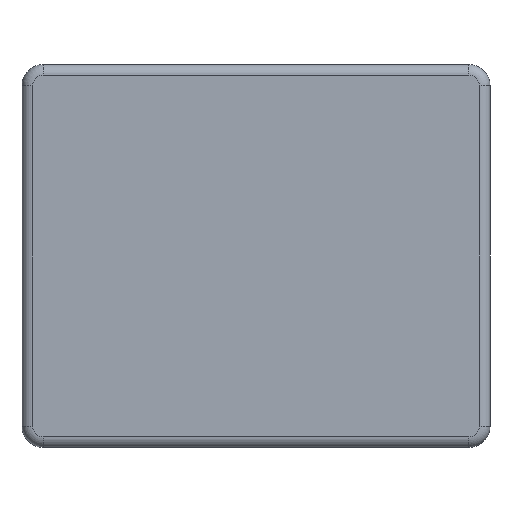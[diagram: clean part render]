
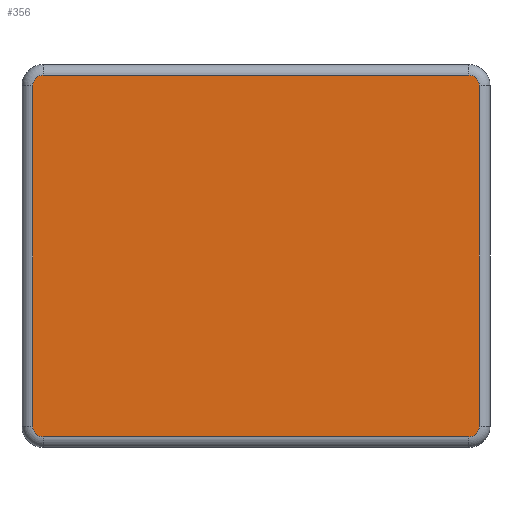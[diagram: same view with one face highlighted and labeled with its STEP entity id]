
A CAD part, front view. The second image highlights one B-rep face of the part: STEP entity #356.
In plain terms, the highlighted planar face has unit normal (0, -1, 0).
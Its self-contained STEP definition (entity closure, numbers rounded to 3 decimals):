
#3 = CARTESIAN_POINT ( 'NONE',  ( -1., 0., -0.8 ) ) ;
#30 = LINE ( 'NONE', #469, #640 ) ;
#31 = DIRECTION ( 'NONE',  ( 0., -1., 0. ) ) ;
#33 = ORIENTED_EDGE ( 'NONE', *, *, #868, .T. ) ;
#77 = EDGE_CURVE ( 'NONE', #169, #563, #396, .T. ) ;
#92 = CARTESIAN_POINT ( 'NONE',  ( 1.05, 0., 0.8 ) ) ;
#116 = DIRECTION ( 'NONE',  ( 1., 0., 0. ) ) ;
#146 = EDGE_CURVE ( 'NONE', #421, #404, #30, .T. ) ;
#149 = EDGE_LOOP ( 'NONE', ( #909, #467, #328, #33, #576, #751, #513, #835 ) ) ;
#152 = DIRECTION ( 'NONE',  ( 0., -1., 0. ) ) ;
#161 = DIRECTION ( 'NONE',  ( 0., 0., -1. ) ) ;
#169 = VERTEX_POINT ( 'NONE', #548 ) ;
#171 = VECTOR ( 'NONE', #116, 1000. ) ;
#174 = VECTOR ( 'NONE', #954, 1000. ) ;
#186 = AXIS2_PLACEMENT_3D ( 'NONE', #3, #696, #761 ) ;
#191 = DIRECTION ( 'NONE',  ( 0., 0., -1. ) ) ;
#195 = EDGE_CURVE ( 'NONE', #701, #452, #791, .T. ) ;
#199 = CARTESIAN_POINT ( 'NONE',  ( 1., 0., -0.85 ) ) ;
#212 = CARTESIAN_POINT ( 'NONE',  ( -1.05, 0., 0.8 ) ) ;
#296 = DIRECTION ( 'NONE',  ( 0., 0., -1. ) ) ;
#302 = CIRCLE ( 'NONE', #523, 0.05 ) ;
#321 = CARTESIAN_POINT ( 'NONE',  ( 1., 0., 0.8 ) ) ;
#328 = ORIENTED_EDGE ( 'NONE', *, *, #886, .T. ) ;
#335 = FACE_OUTER_BOUND ( 'NONE', #149, .T. ) ;
#346 = CARTESIAN_POINT ( 'NONE',  ( 1., 0., -0.8 ) ) ;
#349 = AXIS2_PLACEMENT_3D ( 'NONE', #794, #806, #296 ) ;
#356 = ADVANCED_FACE ( 'NONE', ( #335 ), #410, .T. ) ;
#369 = CIRCLE ( 'NONE', #186, 0.05 ) ;
#379 = VERTEX_POINT ( 'NONE', #865 ) ;
#396 = LINE ( 'NONE', #92, #589 ) ;
#404 = VERTEX_POINT ( 'NONE', #881 ) ;
#410 = PLANE ( 'NONE',  #349 ) ;
#416 = CARTESIAN_POINT ( 'NONE',  ( -1., 0., 0.8 ) ) ;
#421 = VERTEX_POINT ( 'NONE', #212 ) ;
#444 = CARTESIAN_POINT ( 'NONE',  ( -1., 0., 0.85 ) ) ;
#452 = VERTEX_POINT ( 'NONE', #444 ) ;
#467 = ORIENTED_EDGE ( 'NONE', *, *, #659, .T. ) ;
#469 = CARTESIAN_POINT ( 'NONE',  ( -1.05, 0., -0.8 ) ) ;
#483 = VERTEX_POINT ( 'NONE', #975 ) ;
#484 = DIRECTION ( 'NONE',  ( 0., -1., 0. ) ) ;
#501 = CARTESIAN_POINT ( 'NONE',  ( 1.05, 0., 0.8 ) ) ;
#513 = ORIENTED_EDGE ( 'NONE', *, *, #195, .T. ) ;
#523 = AXIS2_PLACEMENT_3D ( 'NONE', #416, #484, #929 ) ;
#535 = CARTESIAN_POINT ( 'NONE',  ( 1., 0., 0.85 ) ) ;
#548 = CARTESIAN_POINT ( 'NONE',  ( 1.05, 0., -0.8 ) ) ;
#554 = CIRCLE ( 'NONE', #633, 0.05 ) ;
#561 = LINE ( 'NONE', #199, #171 ) ;
#563 = VERTEX_POINT ( 'NONE', #501 ) ;
#573 = CARTESIAN_POINT ( 'NONE',  ( -1., 0., 0.85 ) ) ;
#576 = ORIENTED_EDGE ( 'NONE', *, *, #77, .T. ) ;
#589 = VECTOR ( 'NONE', #837, 1000. ) ;
#633 = AXIS2_PLACEMENT_3D ( 'NONE', #321, #152, #161 ) ;
#640 = VECTOR ( 'NONE', #773, 1000. ) ;
#657 = CIRCLE ( 'NONE', #783, 0.05 ) ;
#659 = EDGE_CURVE ( 'NONE', #404, #379, #369, .T. ) ;
#667 = EDGE_CURVE ( 'NONE', #563, #701, #554, .T. ) ;
#696 = DIRECTION ( 'NONE',  ( 0., -1., 0. ) ) ;
#701 = VERTEX_POINT ( 'NONE', #535 ) ;
#751 = ORIENTED_EDGE ( 'NONE', *, *, #667, .T. ) ;
#761 = DIRECTION ( 'NONE',  ( 0., 0., -1. ) ) ;
#773 = DIRECTION ( 'NONE',  ( 0., 0., -1. ) ) ;
#783 = AXIS2_PLACEMENT_3D ( 'NONE', #346, #31, #191 ) ;
#791 = LINE ( 'NONE', #573, #174 ) ;
#794 = CARTESIAN_POINT ( 'NONE',  ( -1., 0., 0.8 ) ) ;
#799 = EDGE_CURVE ( 'NONE', #452, #421, #302, .T. ) ;
#806 = DIRECTION ( 'NONE',  ( 0., -1., 0. ) ) ;
#835 = ORIENTED_EDGE ( 'NONE', *, *, #799, .T. ) ;
#837 = DIRECTION ( 'NONE',  ( 0., 0., 1. ) ) ;
#865 = CARTESIAN_POINT ( 'NONE',  ( -1., 0., -0.85 ) ) ;
#868 = EDGE_CURVE ( 'NONE', #483, #169, #657, .T. ) ;
#881 = CARTESIAN_POINT ( 'NONE',  ( -1.05, 0., -0.8 ) ) ;
#886 = EDGE_CURVE ( 'NONE', #379, #483, #561, .T. ) ;
#909 = ORIENTED_EDGE ( 'NONE', *, *, #146, .T. ) ;
#929 = DIRECTION ( 'NONE',  ( 0., 0., -1. ) ) ;
#954 = DIRECTION ( 'NONE',  ( -1., 0., 0. ) ) ;
#975 = CARTESIAN_POINT ( 'NONE',  ( 1., 0., -0.85 ) ) ;
